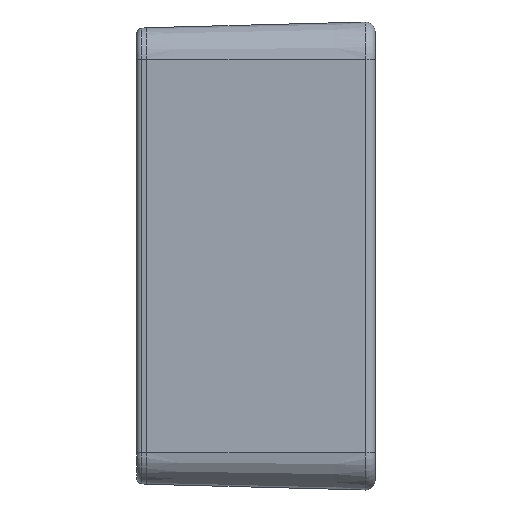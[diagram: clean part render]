
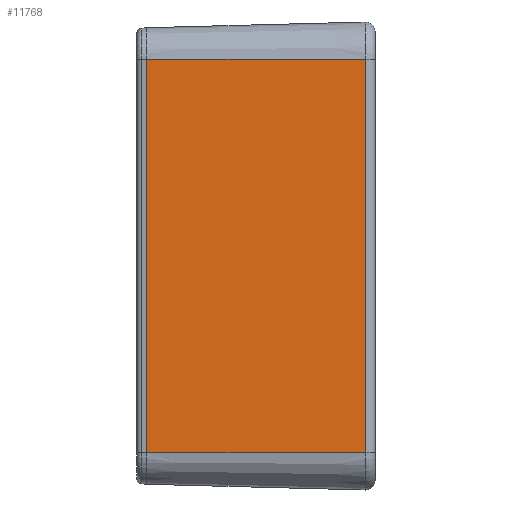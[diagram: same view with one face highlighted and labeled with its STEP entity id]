
A CAD part, left-side view. The second image highlights one B-rep face of the part: STEP entity #11768.
In plain terms, the highlighted planar face has unit normal (-1, 0.026, 0).
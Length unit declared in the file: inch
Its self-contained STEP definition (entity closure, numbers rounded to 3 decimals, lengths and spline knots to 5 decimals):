
#3636 = ORIENTED_EDGE ( 'NONE', *, *, #12684, .F. ) ;
#3638 = ORIENTED_EDGE ( 'NONE', *, *, #12685, .T. ) ;
#3640 = ORIENTED_EDGE ( 'NONE', *, *, #12687, .T. ) ;
#3642 = ORIENTED_EDGE ( 'NONE', *, *, #12683, .F. ) ;
#4489 = CARTESIAN_POINT ( 'NONE',  ( -5., 0., -2.585 ) ) ;
#4571 = CARTESIAN_POINT ( 'NONE',  ( -5.0752, -2.87173, 2.585 ) ) ;
#4651 = CARTESIAN_POINT ( 'NONE',  ( -5.0752, -2.87173, -2.585 ) ) ;
#4676 = CARTESIAN_POINT ( 'NONE',  ( -5., 0., 2.585 ) ) ;
#7121 = DIRECTION ( 'NONE',  ( -0.026, -1., 0. ) ) ;
#7140 = DIRECTION ( 'NONE',  ( -1., 0.026, 0. ) ) ;
#7154 = CARTESIAN_POINT ( 'NONE',  ( -5., 0., -2.585 ) ) ;
#7291 = PLANE ( 'NONE',  #14599 ) ;
#8219 = LINE ( 'NONE', #15512, #8221 ) ;
#8221 = VECTOR ( 'NONE', #15511, 39.37008 ) ;
#8224 = LINE ( 'NONE', #15526, #8225 ) ;
#8225 = VECTOR ( 'NONE', #15525, 39.37008 ) ;
#8226 = LINE ( 'NONE', #15524, #8227 ) ;
#8227 = VECTOR ( 'NONE', #15523, 39.37008 ) ;
#8228 = LINE ( 'NONE', #15520, #8229 ) ;
#8229 = VECTOR ( 'NONE', #15519, 39.37008 ) ;
#11248 = FACE_OUTER_BOUND ( 'NONE', #12128, .T. ) ;
#11768 = ADVANCED_FACE ( 'NONE', ( #11248 ), #7291, .T. ) ;
#12128 = EDGE_LOOP ( 'NONE', ( #3636, #3638, #3640, #3642 ) ) ;
#12683 = EDGE_CURVE ( 'NONE', #13790, #13851, #8224, .T. ) ;
#12684 = EDGE_CURVE ( 'NONE', #13823, #13790, #8226, .T. ) ;
#12685 = EDGE_CURVE ( 'NONE', #13823, #13793, #8228, .T. ) ;
#12687 = EDGE_CURVE ( 'NONE', #13793, #13851, #8219, .T. ) ;
#13790 = VERTEX_POINT ( 'NONE', #4489 ) ;
#13793 = VERTEX_POINT ( 'NONE', #4571 ) ;
#13823 = VERTEX_POINT ( 'NONE', #4651 ) ;
#13851 = VERTEX_POINT ( 'NONE', #4676 ) ;
#14599 = AXIS2_PLACEMENT_3D ( 'NONE', #7154, #7140, #7121 ) ;
#15511 = DIRECTION ( 'NONE',  ( 0.026, 1., 0. ) ) ;
#15512 = CARTESIAN_POINT ( 'NONE',  ( -5., 0., 2.585 ) ) ;
#15519 = DIRECTION ( 'NONE',  ( 0., 0., 1. ) ) ;
#15520 = CARTESIAN_POINT ( 'NONE',  ( -5.0752, -2.87173, 2.585 ) ) ;
#15523 = DIRECTION ( 'NONE',  ( 0.026, 1., 0. ) ) ;
#15524 = CARTESIAN_POINT ( 'NONE',  ( -5., 0., -2.585 ) ) ;
#15525 = DIRECTION ( 'NONE',  ( 0., 0., 1. ) ) ;
#15526 = CARTESIAN_POINT ( 'NONE',  ( -5., 0., -2.585 ) ) ;
